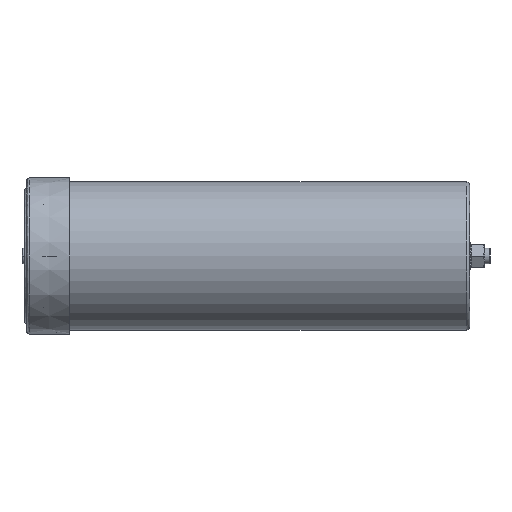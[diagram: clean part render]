
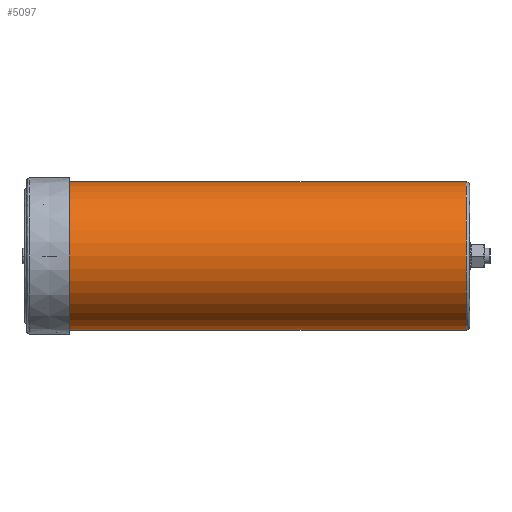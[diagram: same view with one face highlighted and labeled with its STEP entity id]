
A CAD part, left-side view. The second image highlights one B-rep face of the part: STEP entity #5097.
In plain terms, the highlighted cylindrical face has radius 58 mm (diameter 116 mm), a partial arc.
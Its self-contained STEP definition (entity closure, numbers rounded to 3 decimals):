
#61 = VERTEX_POINT ( 'NONE', #11741 ) ;
#1135 = ORIENTED_EDGE ( 'NONE', *, *, #10757, .F. ) ;
#1257 = CARTESIAN_POINT ( 'NONE',  ( 0., -340.9, 0. ) ) ;
#1328 = DIRECTION ( 'NONE',  ( 0., 0., -1. ) ) ;
#1822 = VERTEX_POINT ( 'NONE', #12715 ) ;
#2045 = ORIENTED_EDGE ( 'NONE', *, *, #7170, .T. ) ;
#2258 = CARTESIAN_POINT ( 'NONE',  ( 0., 0., -58. ) ) ;
#3361 = EDGE_CURVE ( 'NONE', #1822, #14820, #7411, .T. ) ;
#3538 = VERTEX_POINT ( 'NONE', #2258 ) ;
#4089 = CIRCLE ( 'NONE', #14255, 58. ) ;
#4341 = VECTOR ( 'NONE', #13172, 1000. ) ;
#4601 = CARTESIAN_POINT ( 'NONE',  ( 0., -343.4, 0. ) ) ;
#4872 = CIRCLE ( 'NONE', #11160, 58. ) ;
#5097 = ADVANCED_FACE ( 'NONE', ( #8594 ), #13807, .T. ) ;
#5358 = CARTESIAN_POINT ( 'NONE',  ( 0., 0., 0. ) ) ;
#7170 = EDGE_CURVE ( 'NONE', #3538, #61, #20419, .T. ) ;
#7236 = ORIENTED_EDGE ( 'NONE', *, *, #11652, .T. ) ;
#7411 = LINE ( 'NONE', #20262, #10856 ) ;
#7594 = EDGE_LOOP ( 'NONE', ( #13110, #1135, #2045, #7236 ) ) ;
#8401 = CARTESIAN_POINT ( 'NONE',  ( 0., -343.4, -58. ) ) ;
#8594 = FACE_OUTER_BOUND ( 'NONE', #7594, .T. ) ;
#9287 = DIRECTION ( 'NONE',  ( 0., 0., -1. ) ) ;
#9839 = DIRECTION ( 'NONE',  ( 0., 1., 0. ) ) ;
#10616 = DIRECTION ( 'NONE',  ( 0., 1., 0. ) ) ;
#10757 = EDGE_CURVE ( 'NONE', #3538, #1822, #4872, .T. ) ;
#10856 = VECTOR ( 'NONE', #12022, 1000. ) ;
#11160 = AXIS2_PLACEMENT_3D ( 'NONE', #5358, #9839, #14554 ) ;
#11652 = EDGE_CURVE ( 'NONE', #61, #14820, #4089, .T. ) ;
#11741 = CARTESIAN_POINT ( 'NONE',  ( 0., -340.9, -58. ) ) ;
#12022 = DIRECTION ( 'NONE',  ( 0., -1., 0. ) ) ;
#12715 = CARTESIAN_POINT ( 'NONE',  ( 0., 0., 58. ) ) ;
#13110 = ORIENTED_EDGE ( 'NONE', *, *, #3361, .F. ) ;
#13172 = DIRECTION ( 'NONE',  ( 0., -1., 0. ) ) ;
#13807 = CYLINDRICAL_SURFACE ( 'NONE', #16401, 58. ) ;
#14255 = AXIS2_PLACEMENT_3D ( 'NONE', #1257, #10616, #1328 ) ;
#14554 = DIRECTION ( 'NONE',  ( 0., 0., -1. ) ) ;
#14820 = VERTEX_POINT ( 'NONE', #20230 ) ;
#16401 = AXIS2_PLACEMENT_3D ( 'NONE', #4601, #17228, #9287 ) ;
#17228 = DIRECTION ( 'NONE',  ( 0., -1., 0. ) ) ;
#20230 = CARTESIAN_POINT ( 'NONE',  ( 0., -340.9, 58. ) ) ;
#20262 = CARTESIAN_POINT ( 'NONE',  ( 0., -343.4, 58. ) ) ;
#20419 = LINE ( 'NONE', #8401, #4341 ) ;
